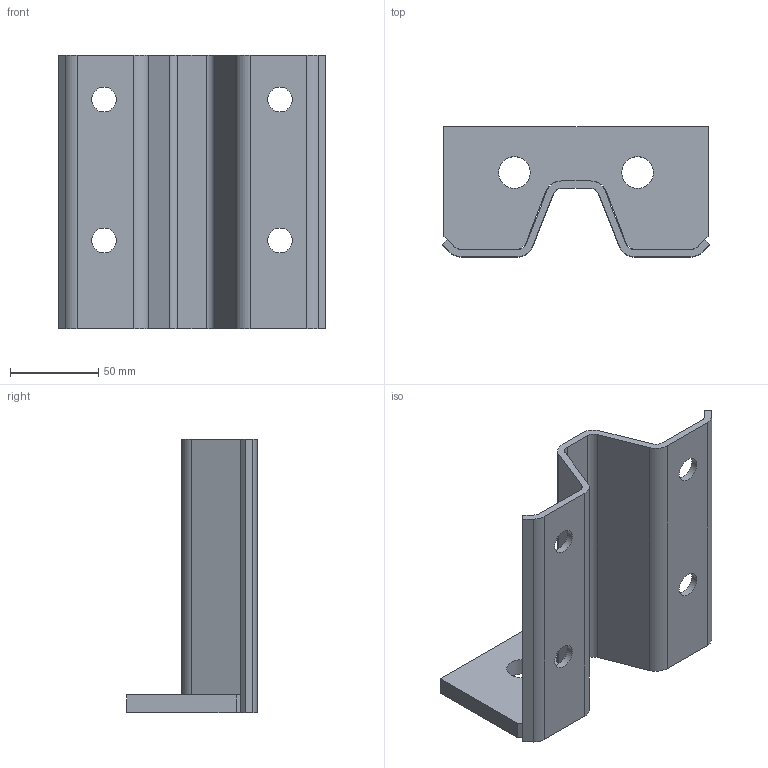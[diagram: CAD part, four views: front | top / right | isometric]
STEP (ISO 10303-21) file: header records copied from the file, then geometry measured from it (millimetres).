
FILE_DESCRIPTION(/* description */ (''),/* implementation_level */ '2;1');
FILE_NAME(/* name */ 'ZB170W70.stp',/* time_stamp */ '2023-07-03T11:24:14+02:00',/* author */ ('woriedl'),/* organization */ (''),/* preprocessor_version */ 'ST-DEVELOPER v19.2',/* originating_system */ 'AutoCAD Mechanical',/* authorisation */ '');
FILE_SCHEMA (('AUTOMOTIVE_DESIGN { 1 0 10303 214 3 1 1 }'));
Length unit declared in the file: centimetre
Products named in the file (1): Product
Bounding box: 151.72 x 74 x 155 mm (x, y, z)
Volume: 204361.1 mm3; surface area: 87142.6 mm2
Topology: 2 solids, 2 shells, 54 faces, 150 edges, 100 vertices
Faces by surface type: plane 30, cylinder 24
Full cylindrical faces by diameter (mm): 14 x4, 18 x2
Entity records: 1788 total; most frequent: DIRECTION 308, CARTESIAN_POINT 305, ORIENTED_EDGE 300, EDGE_CURVE 150, AXIS2_PLACEMENT_3D 103, LINE 102, VECTOR 102, VERTEX_POINT 100
